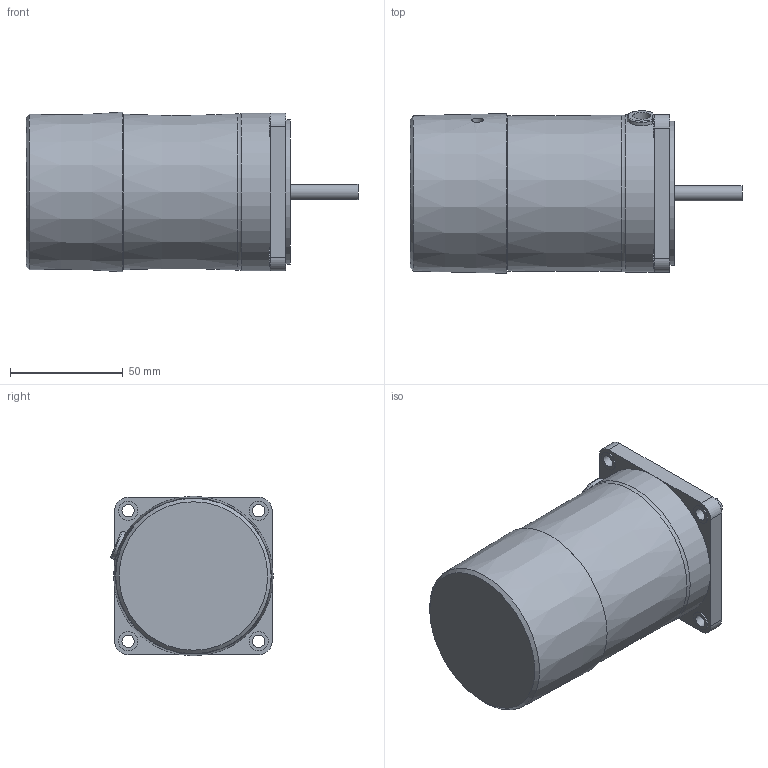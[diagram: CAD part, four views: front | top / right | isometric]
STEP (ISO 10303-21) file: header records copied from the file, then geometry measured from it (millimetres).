
FILE_DESCRIPTION((''),'2;1');
FILE_NAME('D:\STP파일\15W MOTOR\BLACK TYPE\S7R15S-E.stp','2013-05-20T15:59:44',('leebh'),(''),'Autodesk Inventor 2011','Autodesk Inventor 2011','');
FILE_SCHEMA(('AUTOMOTIVE_DESIGN { 1 0 10303 214 1 1 1 1 }'));
Length unit declared in the file: millimetre
Products named in the file (1): 부품2
Bounding box: 147.5 x 72.2 x 70.94 mm (x, y, z)
Volume: 443904.5 mm3; surface area: 39108.6 mm2
Topology: 1 solids, 3 shells, 90 faces, 208 edges, 137 vertices
Faces by surface type: plane 51, cylinder 33, cone 4, torus 2
Full cylindrical faces by diameter (mm): 5 x1, 5.5 x4, 6.7 x1, 8 x1, 8.5 x4, 10 x1, 28 x1, 64 x1, 68 x1, 70 x1
Entity records: 2533 total; most frequent: CARTESIAN_POINT 499, DIRECTION 434, ORIENTED_EDGE 362, EDGE_CURVE 181, AXIS2_PLACEMENT_3D 171, EDGE_LOOP 134, VERTEX_POINT 131, VECTOR 92
